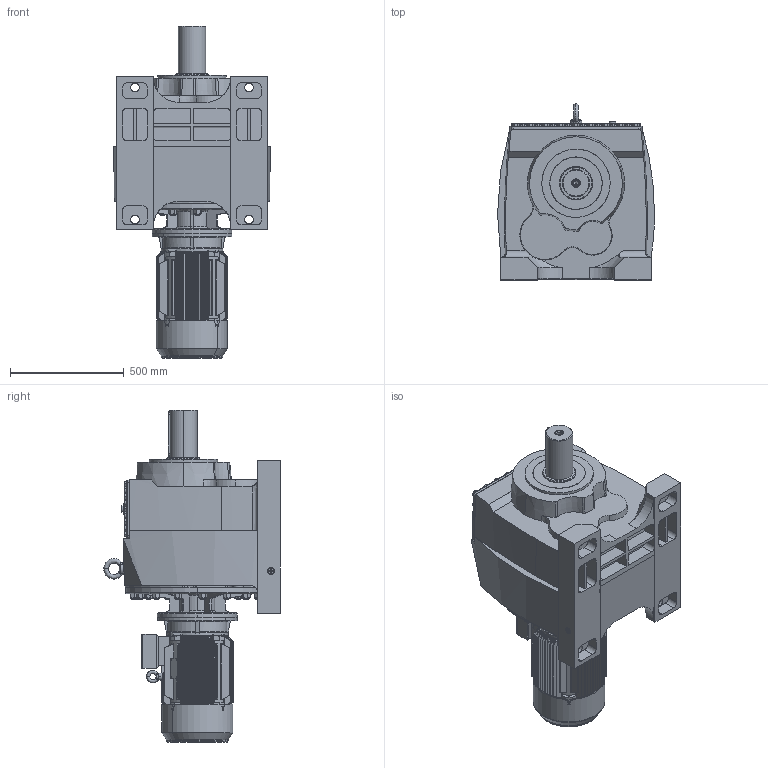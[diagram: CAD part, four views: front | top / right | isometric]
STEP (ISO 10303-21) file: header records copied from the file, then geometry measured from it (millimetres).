
FILE_DESCRIPTION (( 'STEP AP203' ), '1' );
FILE_NAME ('MV972-MV973-M3-160L.STEP', '2019-07-24T08:37:36', ( '' ), ( '' ), 'SwSTEP 2.0', 'SolidWorks 2012', '' );
FILE_SCHEMA (( 'CONFIG_CONTROL_DESIGN' ));
Products named in the file (15): M3-160L-FF-B5; MV972-MV973-M3-160L; Y2-160-2ª¥--®+_-++ñ; Y2-160_shaft; +¦i-MN2-160_-++ñ; +ª+§ªiY2-160ñ»ª­_-++ñ; Y2-160-4Ý¾6Ý¾8-ª+---®+_-++ñ; Y2-160L+À+¿(B5)_-++ñ; Eyebolts GB_GB_FASTENER_SCREWS_FRS M12N; Y2-160-180ñ»ª­®+_-++ñ; ML9A_Varsayìlan; MN_97_3_0_A-B16_B5_ML9A_0_0_0_0_0_0_0_0_0_0_0_0_M1; Y2-160ñ»ª­+¿_-++ñ; M973_Varsayìlan; 93160B5_Varsayìlan
Assembly tree (14 placements, depth 4):
  MV972-MV973-M3-160L
    MN_97_3_0_A-B16_B5_ML9A_0_0_0_0_0_0_0_0_0_0_0_0_M1
      M973_Varsayìlan
      93160B5_Varsayìlan
      ML9A_Varsayìlan
    M3-160L-FF-B5
      +ª+§ªiY2-160ñ»ª­_-++ñ
        Y2-160-180ñ»ª­®+_-++ñ
        Y2-160ñ»ª­+¿_-++ñ
      Y2-160-4Ý¾6Ý¾8-ª+---®+_-++ñ
      Y2-160L+À+¿(B5)_-++ñ
      Eyebolts GB_GB_FASTENER_SCREWS_FRS M12N
      Y2-160-2ª¥--®+_-++ñ
      +¦i-MN2-160_-++ñ
      Y2-160_shaft
Bounding box: 688.77 x 774.59 x 1457.5 mm (x, y, z)
Volume: 228420400.7 mm3; surface area: 6405114.3 mm2
Topology: 11 solids, 11 shells, 2838 faces, 7142 edges, 4444 vertices
Faces by surface type: plane 1000, cylinder 815, cone 746, bspline 174, torus 63, sphere 40
Entity records: 138204 total; most frequent: CARTESIAN_POINT 73501, ORIENTED_EDGE 14184, DIRECTION 11388, EDGE_CURVE 7092, VERTEX_POINT 4429, AXIS2_PLACEMENT_3D 4268, EDGE_LOOP 3119, LINE 2852
